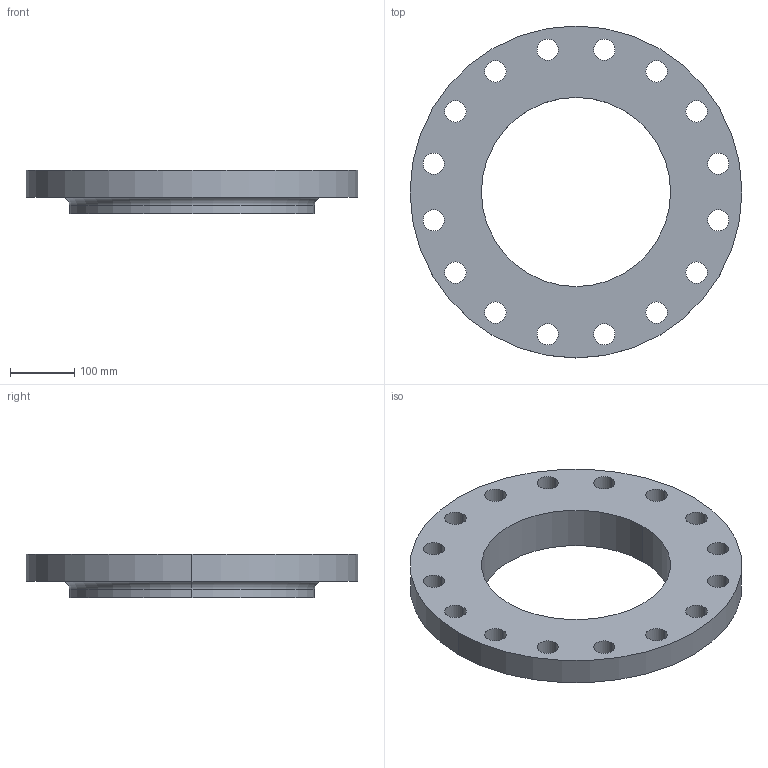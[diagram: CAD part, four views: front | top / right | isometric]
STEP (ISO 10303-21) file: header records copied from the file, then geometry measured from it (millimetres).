
FILE_DESCRIPTION (( 'STEP AP214' ), '1' );
FILE_NAME ('PN40 DN300 Type 13 - Type A Face.STEP', '2019-01-05T20:20:01', ( '' ), ( '' ), 'SwSTEP 2.0', 'SolidWorks 2019', '' );
FILE_SCHEMA (( 'AUTOMOTIVE_DESIGN' ));
Length unit declared in the file: millimetre
Products named in the file (1): PN40 DN300 Type 13 - Type A Face
Bounding box: 515 x 515 x 67 mm (x, y, z)
Volume: 6513738.4 mm3; surface area: 477088.4 mm2
Topology: 1 solids, 1 shells, 43 faces, 118 edges, 78 vertices
Faces by surface type: cylinder 38, plane 3, torus 2
Entity records: 1518 total; most frequent: DIRECTION 286, CARTESIAN_POINT 240, ORIENTED_EDGE 236, AXIS2_PLACEMENT_3D 124, EDGE_CURVE 118, CIRCLE 80, EDGE_LOOP 78, VERTEX_POINT 78
